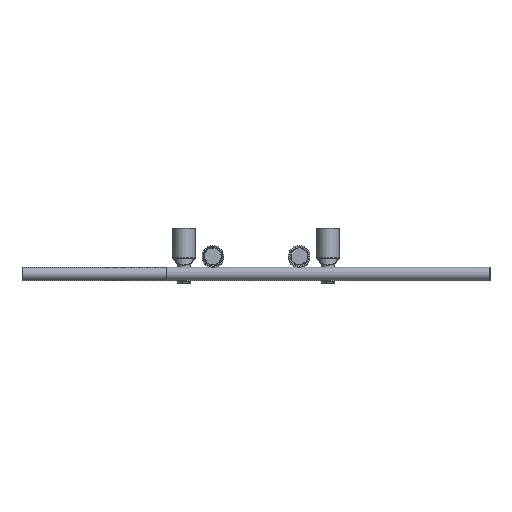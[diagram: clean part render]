
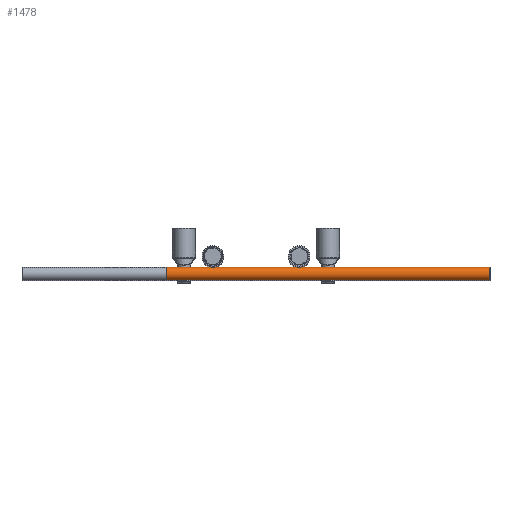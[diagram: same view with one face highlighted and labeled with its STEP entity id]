
A CAD part, top view. The second image highlights one B-rep face of the part: STEP entity #1478.
In plain terms, the highlighted cylindrical face has radius 9 mm (diameter 18 mm), a full revolution.
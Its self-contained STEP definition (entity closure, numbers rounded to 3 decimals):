
#360=CIRCLE('',#1659,9.);
#361=CIRCLE('',#1661,9.);
#427=FACE_BOUND('',#621,.T.);
#480=FACE_OUTER_BOUND('',#620,.T.);
#620=EDGE_LOOP('',(#1247));
#621=EDGE_LOOP('',(#1248));
#821=VERTEX_POINT('',#3352);
#822=VERTEX_POINT('',#3355);
#973=EDGE_CURVE('',#821,#821,#360,.T.);
#974=EDGE_CURVE('',#822,#822,#361,.T.);
#1247=ORIENTED_EDGE('',*,*,#974,.F.);
#1248=ORIENTED_EDGE('',*,*,#973,.T.);
#1428=CYLINDRICAL_SURFACE('',#1662,9.);
#1478=ADVANCED_FACE('',(#480,#427),#1428,.T.);
#1659=AXIS2_PLACEMENT_3D('',#3353,#1919,#1920);
#1661=AXIS2_PLACEMENT_3D('',#3356,#1923,#1924);
#1662=AXIS2_PLACEMENT_3D('',#3357,#1925,#1926);
#1919=DIRECTION('center_axis',(0.,0.,-1.));
#1920=DIRECTION('ref_axis',(-1.,0.,0.));
#1923=DIRECTION('center_axis',(0.,0.,-1.));
#1924=DIRECTION('ref_axis',(-1.,0.,0.));
#1925=DIRECTION('center_axis',(0.,0.,-1.));
#1926=DIRECTION('ref_axis',(-1.,0.,0.));
#3352=CARTESIAN_POINT('',(9.,-9.,0.));
#3353=CARTESIAN_POINT('Origin',(0.,-9.,0.));
#3355=CARTESIAN_POINT('',(9.,-9.,-450.));
#3356=CARTESIAN_POINT('Origin',(0.,-9.,-450.));
#3357=CARTESIAN_POINT('Origin',(0.,-9.,0.));
